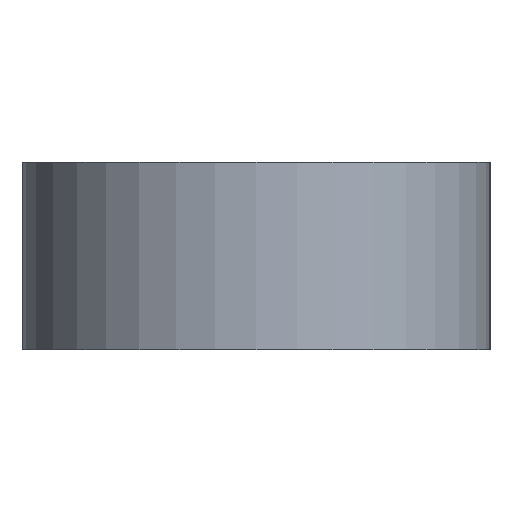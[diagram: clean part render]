
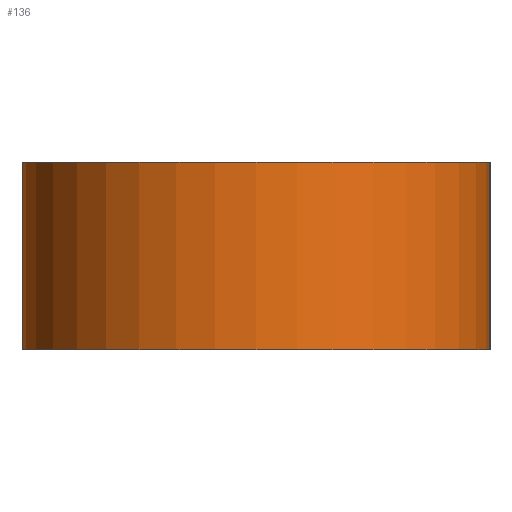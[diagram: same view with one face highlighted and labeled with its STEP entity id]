
A CAD part, left-side view. The second image highlights one B-rep face of the part: STEP entity #136.
In plain terms, the highlighted cylindrical face has radius 5 mm (diameter 10 mm), a partial arc.
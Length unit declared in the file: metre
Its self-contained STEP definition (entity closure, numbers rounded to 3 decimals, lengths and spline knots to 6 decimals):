
#16=CIRCLE('',#162,0.005);
#17=CIRCLE('',#163,0.005);
#22=CYLINDRICAL_SURFACE('',#161,0.005);
#38=ORIENTED_EDGE('',*,*,#68,.T.);
#39=ORIENTED_EDGE('',*,*,#59,.F.);
#40=ORIENTED_EDGE('',*,*,#69,.F.);
#41=ORIENTED_EDGE('',*,*,#64,.T.);
#59=EDGE_CURVE('',#75,#73,#87,.T.);
#64=EDGE_CURVE('',#79,#78,#90,.T.);
#68=EDGE_CURVE('',#78,#73,#16,.T.);
#69=EDGE_CURVE('',#79,#75,#17,.T.);
#73=VERTEX_POINT('',#215);
#75=VERTEX_POINT('',#219);
#78=VERTEX_POINT('',#229);
#79=VERTEX_POINT('',#231);
#87=LINE('',#220,#95);
#90=LINE('',#230,#98);
#95=VECTOR('',#176,1.);
#98=VECTOR('',#187,1.);
#105=EDGE_LOOP('',(#38,#39,#40,#41));
#119=FACE_BOUND('',#105,.T.);
#136=ADVANCED_FACE('',(#119),#22,.T.);
#161=AXIS2_PLACEMENT_3D('',#238,#195,#196);
#162=AXIS2_PLACEMENT_3D('',#239,#197,#198);
#163=AXIS2_PLACEMENT_3D('',#240,#199,#200);
#176=DIRECTION('',(0.,0.,-1.));
#187=DIRECTION('',(0.,0.,-1.));
#195=DIRECTION('',(0.,0.,-1.));
#196=DIRECTION('',(-1.,0.,0.));
#197=DIRECTION('',(0.,0.,1.));
#198=DIRECTION('',(1.,0.,0.));
#199=DIRECTION('',(0.,0.,1.));
#200=DIRECTION('',(1.,0.,0.));
#215=CARTESIAN_POINT('',(-0.0135,-0.005,0.));
#219=CARTESIAN_POINT('',(-0.0135,-0.005,0.004));
#220=CARTESIAN_POINT('',(-0.0135,-0.005,0.004));
#229=CARTESIAN_POINT('',(-0.0135,0.005,0.));
#230=CARTESIAN_POINT('',(-0.0135,0.005,0.004));
#231=CARTESIAN_POINT('',(-0.0135,0.005,0.004));
#238=CARTESIAN_POINT('',(-0.0135,0.,0.004));
#239=CARTESIAN_POINT('',(-0.0135,0.,0.));
#240=CARTESIAN_POINT('',(-0.0135,0.,0.004));
